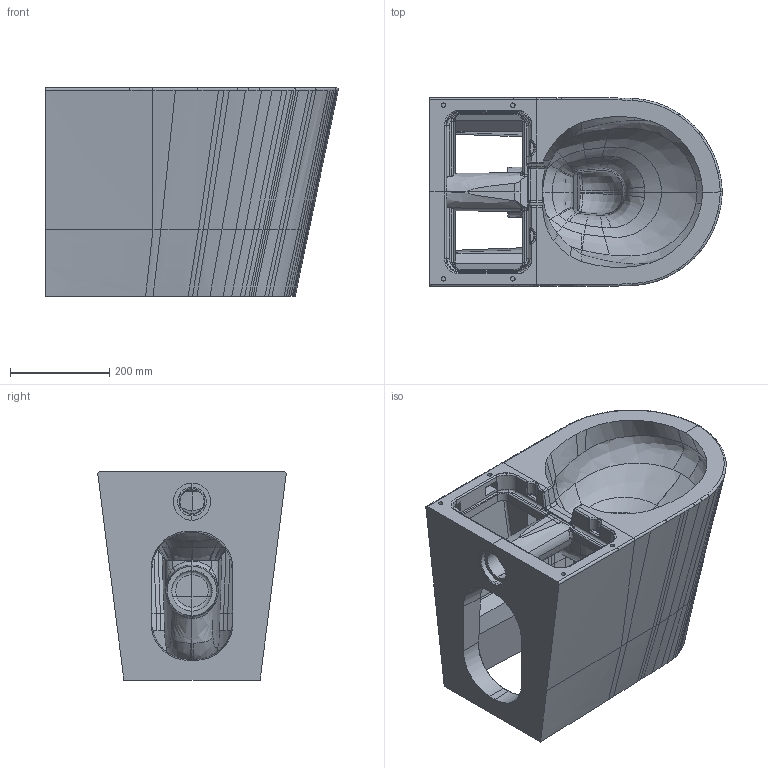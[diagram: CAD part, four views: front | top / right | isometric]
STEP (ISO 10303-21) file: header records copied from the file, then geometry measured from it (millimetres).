
FILE_DESCRIPTION(('CATIA V5 STEP Exchange'),'2;1');
FILE_NAME('C:\Users\Luca\Downloads\3D Vaso Terra Hygea.stp','2022-06-28T06:24:59+00:00',('none'),('none'),'CATIA Version 5 Release 19 SP 5 (IN-10)','CATIA V5 STEP AP214','none');
FILE_SCHEMA(('AUTOMOTIVE_DESIGN { 1 0 10303 214 1 1 1 1 }'));
Products named in the file (1): Funz Vaso terra hygea
Bounding box: 589.77 x 379.7 x 420 mm (x, y, z)
Surface area: 1544272.8 mm2 (no closed solid volume)
Topology: 0 solids, 3 shells, 662 faces, 2015 edges, 1320 vertices
Faces by surface type: bspline 446, cylinder 96, plane 94, revolution 26
Entity records: 88143 total; most frequent: CARTESIAN_POINT 75119, ORIENTED_EDGE 3836, EDGE_CURVE 1986, B_SPLINE_CURVE_WITH_KNOTS 1574, VERTEX_POINT 1320, DIRECTION 728, EDGE_LOOP 674, ADVANCED_FACE 662
